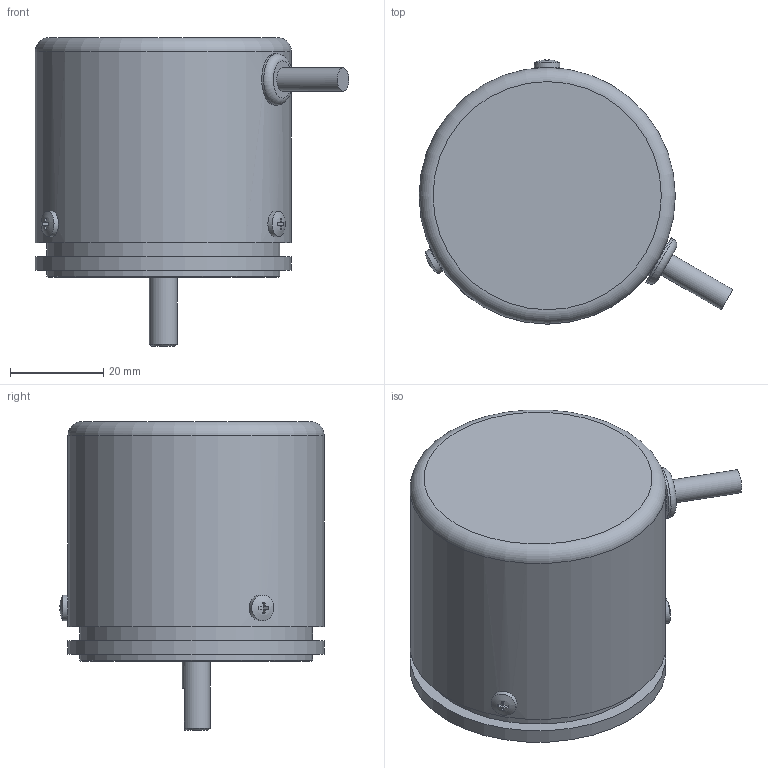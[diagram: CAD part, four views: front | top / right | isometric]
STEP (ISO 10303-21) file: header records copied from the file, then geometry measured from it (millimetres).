
FILE_DESCRIPTION(('STEP AP214'),'1');
FILE_NAME('.stp','2023-04-20T06:49:08',(' '),(' '),'Spatial InterOp 3D',' ',' ');
FILE_SCHEMA(('AUTOMOTIVE_DESIGN { 1 0 10303 214 1 1 1 1 }'));
Length unit declared in the file: millimetre
Products named in the file (1):  MES-45-＊＊＊-05□▽
Bounding box: 67.37 x 56.74 x 66.3 mm (x, y, z)
Volume: 120899.7 mm3; surface area: 15238.7 mm2
Topology: 1 solids, 1 shells, 95 faces, 218 edges, 145 vertices
Faces by surface type: plane 57, cylinder 28, cone 4, torus 3, sphere 3
Full cylindrical faces by diameter (mm): 0.63 x1, 2.5 x6, 2.6 x3, 3.3 x3, 5 x1, 5.5 x3, 6 x1, 8 x1, 11 x1, 28 x1, 50 x2, 55 x2
Entity records: 3787 total; most frequent: CARTESIAN_POINT 1001, DIRECTION 421, ORIENTED_EDGE 334, AXIS2_PLACEMENT_3D 173, EDGE_CURVE 167, EDGE_LOOP 149, VERTEX_POINT 129, FACE_OUTER_BOUND 126
